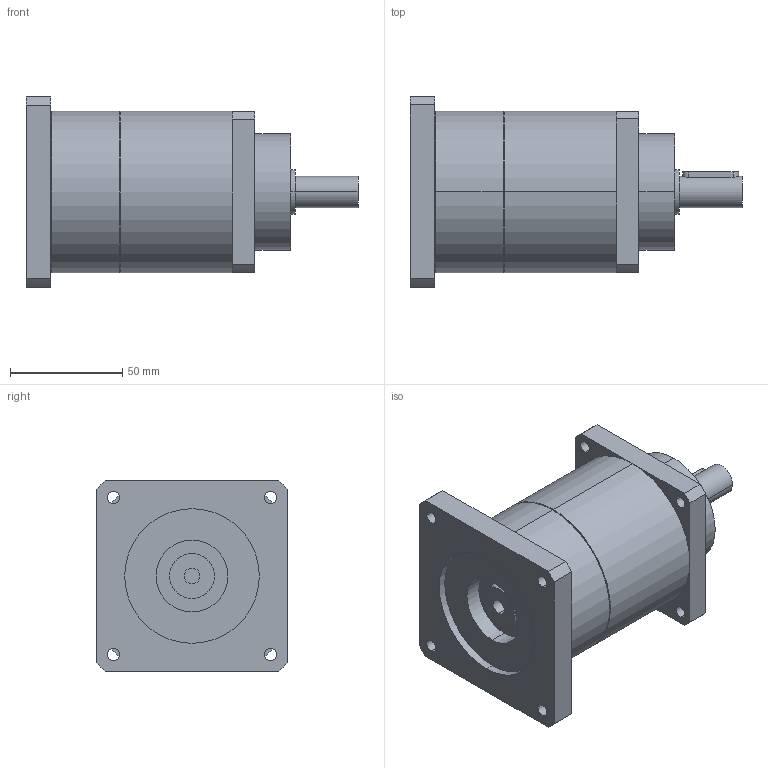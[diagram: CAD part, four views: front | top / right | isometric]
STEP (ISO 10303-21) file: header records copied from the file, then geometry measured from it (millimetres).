
FILE_DESCRIPTION(('CoCreate Modeling STEP Export'),'2;1');
FILE_NAME('GPT75_ig-9-12-16-20-25-28-35-40-50-70-100_14_B5T_7_P33.stp','2014-08-27T13:41:17',(''),(''),'CoCreate Modeling STEP processor for AP214 (Solid Model)','CoCreate Modeling 16.00C 25-Feb-2009 (C) Parametric Technology GmbH','');
FILE_SCHEMA(('AUTOMOTIVE_DESIGN { 1 0 10303 214 1 1 1 1 }'));
Length unit declared in the file: millimetre
Products named in the file (2): GPT75_ig-9-12-16-20-25-28-35-40-50-70-100_14_B5T_7_P33
Assembly tree (1 placements, depth 2):
  GPT75_ig-9-12-16-20-25-28-35-40-50-70-100_14_B5T_7_P33
    GPT75_ig-9-12-16-20-25-28-35-40-50-70-100_14_B5T_7_P33
Bounding box: 148 x 85 x 85 mm (x, y, z)
Volume: 481394.4 mm3; surface area: 49350.4 mm2
Topology: 1 solids, 1 shells, 77 faces, 194 edges, 129 vertices
Faces by surface type: cylinder 46, plane 27, cone 4
Entity records: 2484 total; most frequent: CARTESIAN_POINT 719, ORIENTED_EDGE 388, DIRECTION 320, EDGE_CURVE 194, VERTEX_POINT 129, AXIS2_PLACEMENT_3D 118, EDGE_LOOP 103, VECTOR 84
